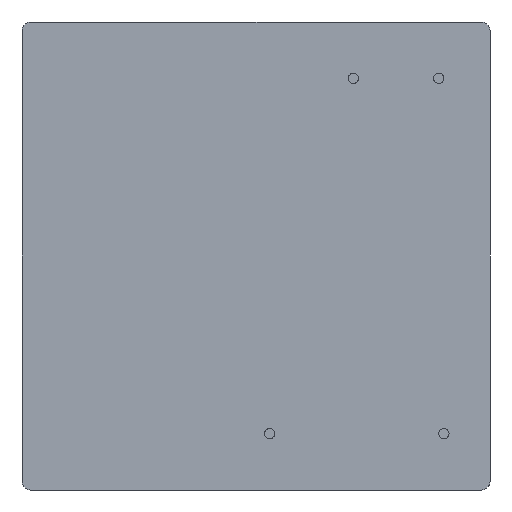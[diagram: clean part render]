
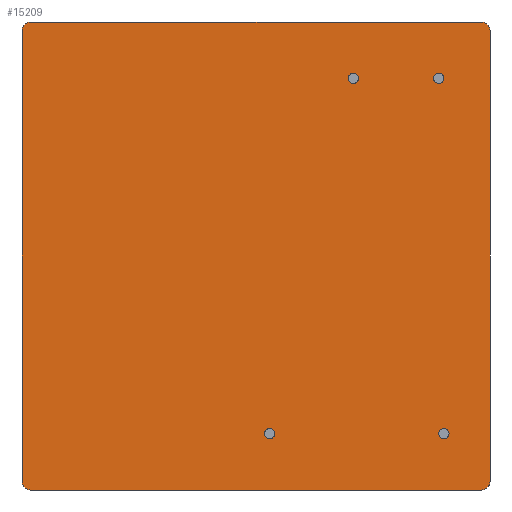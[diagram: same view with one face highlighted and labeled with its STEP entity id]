
A CAD part, front view. The second image highlights one B-rep face of the part: STEP entity #15209.
In plain terms, the highlighted planar face has unit normal (0, -1, 0).
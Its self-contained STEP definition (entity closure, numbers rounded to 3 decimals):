
#4 = CARTESIAN_POINT ( 'NONE',  ( 5.7, 0., 10.7 ) ) ;
#176 = VERTEX_POINT ( 'NONE', #22295 ) ;
#203 = AXIS2_PLACEMENT_3D ( 'NONE', #12719, #22758, #24629 ) ;
#848 = EDGE_LOOP ( 'NONE', ( #10587, #23562, #11804, #15356, #2453, #14245, #7629, #5491 ) ) ;
#942 = LINE ( 'NONE', #5122, #10910 ) ;
#1157 = EDGE_LOOP ( 'NONE', ( #21996, #26554 ) ) ;
#1681 = AXIS2_PLACEMENT_3D ( 'NONE', #24053, #22182, #11874 ) ;
#1868 = FACE_BOUND ( 'NONE', #5534, .T. ) ;
#2317 = VERTEX_POINT ( 'NONE', #17828 ) ;
#2453 = ORIENTED_EDGE ( 'NONE', *, *, #8148, .F. ) ;
#2474 = VERTEX_POINT ( 'NONE', #9324 ) ;
#2648 = CIRCLE ( 'NONE', #17814, 0.5 ) ;
#2751 = AXIS2_PLACEMENT_3D ( 'NONE', #11632, #22075, #3471 ) ;
#2992 = DIRECTION ( 'NONE',  ( 0., 0., -1. ) ) ;
#3059 = DIRECTION ( 'NONE',  ( 0., -1., 0. ) ) ;
#3083 = DIRECTION ( 'NONE',  ( 0., -1., 0. ) ) ;
#3399 = DIRECTION ( 'NONE',  ( 0., -1., 0. ) ) ;
#3471 = DIRECTION ( 'NONE',  ( 0., 0., -1. ) ) ;
#3518 = EDGE_LOOP ( 'NONE', ( #13709, #18211 ) ) ;
#3532 = EDGE_CURVE ( 'NONE', #2474, #9850, #9167, .T. ) ;
#3627 = CIRCLE ( 'NONE', #9233, 0.5 ) ;
#3652 = VERTEX_POINT ( 'NONE', #8875 ) ;
#4139 = PLANE ( 'NONE',  #203 ) ;
#4401 = VECTOR ( 'NONE', #11032, 1000. ) ;
#4424 = CIRCLE ( 'NONE', #2751, 0.3 ) ;
#5081 = AXIS2_PLACEMENT_3D ( 'NONE', #25232, #3399, #20101 ) ;
#5122 = CARTESIAN_POINT ( 'NONE',  ( 13.7, 0., 13.7 ) ) ;
#5287 = CARTESIAN_POINT ( 'NONE',  ( 0.8, 0., -10.7 ) ) ;
#5487 = EDGE_CURVE ( 'NONE', #18491, #7901, #8967, .T. ) ;
#5488 = DIRECTION ( 'NONE',  ( 0., 0., -1. ) ) ;
#5491 = ORIENTED_EDGE ( 'NONE', *, *, #20426, .T. ) ;
#5504 = DIRECTION ( 'NONE',  ( 0., -1., 0. ) ) ;
#5534 = EDGE_LOOP ( 'NONE', ( #25636, #8816 ) ) ;
#5606 = AXIS2_PLACEMENT_3D ( 'NONE', #23253, #3059, #25528 ) ;
#6508 = DIRECTION ( 'NONE',  ( 0., 0., -1. ) ) ;
#6684 = DIRECTION ( 'NONE',  ( 0., 0., -1. ) ) ;
#7076 = CIRCLE ( 'NONE', #22667, 0.3 ) ;
#7495 = ORIENTED_EDGE ( 'NONE', *, *, #14498, .F. ) ;
#7629 = ORIENTED_EDGE ( 'NONE', *, *, #11820, .F. ) ;
#7780 = VERTEX_POINT ( 'NONE', #4 ) ;
#7800 = CARTESIAN_POINT ( 'NONE',  ( -13.7, 0., 13.2 ) ) ;
#7901 = VERTEX_POINT ( 'NONE', #5287 ) ;
#8140 = VERTEX_POINT ( 'NONE', #18278 ) ;
#8148 = EDGE_CURVE ( 'NONE', #26341, #8140, #16382, .T. ) ;
#8290 = CARTESIAN_POINT ( 'NONE',  ( -13.7, 0., -13.2 ) ) ;
#8557 = CARTESIAN_POINT ( 'NONE',  ( -13.7, 0., 13.7 ) ) ;
#8742 = VECTOR ( 'NONE', #15339, 1000. ) ;
#8816 = ORIENTED_EDGE ( 'NONE', *, *, #21939, .F. ) ;
#8875 = CARTESIAN_POINT ( 'NONE',  ( 13.7, 0., -13.2 ) ) ;
#8967 = CIRCLE ( 'NONE', #5081, 0.3 ) ;
#9167 = CIRCLE ( 'NONE', #24340, 0.3 ) ;
#9233 = AXIS2_PLACEMENT_3D ( 'NONE', #10905, #20807, #6684 ) ;
#9324 = CARTESIAN_POINT ( 'NONE',  ( 10.7, 0., 10.7 ) ) ;
#9365 = VECTOR ( 'NONE', #15989, 1000. ) ;
#9463 = ORIENTED_EDGE ( 'NONE', *, *, #13462, .F. ) ;
#9850 = VERTEX_POINT ( 'NONE', #20728 ) ;
#10094 = DIRECTION ( 'NONE',  ( 0., 0., -1. ) ) ;
#10277 = FACE_BOUND ( 'NONE', #20931, .T. ) ;
#10337 = CIRCLE ( 'NONE', #1681, 0.3 ) ;
#10587 = ORIENTED_EDGE ( 'NONE', *, *, #17955, .F. ) ;
#10622 = DIRECTION ( 'NONE',  ( 0., 0., -1. ) ) ;
#10735 = AXIS2_PLACEMENT_3D ( 'NONE', #17271, #25064, #6508 ) ;
#10763 = CARTESIAN_POINT ( 'NONE',  ( 0.8, 0., -10.1 ) ) ;
#10766 = VERTEX_POINT ( 'NONE', #13944 ) ;
#10905 = CARTESIAN_POINT ( 'NONE',  ( 13.2, 0., 13.2 ) ) ;
#10910 = VECTOR ( 'NONE', #2992, 1000. ) ;
#11032 = DIRECTION ( 'NONE',  ( 0., 0., 1. ) ) ;
#11632 = CARTESIAN_POINT ( 'NONE',  ( 0.8, 0., -10.4 ) ) ;
#11804 = ORIENTED_EDGE ( 'NONE', *, *, #17240, .F. ) ;
#11820 = EDGE_CURVE ( 'NONE', #19705, #13485, #13078, .T. ) ;
#11832 = CARTESIAN_POINT ( 'NONE',  ( -13.2, 0., 13.7 ) ) ;
#11874 = DIRECTION ( 'NONE',  ( 0., 0., -1. ) ) ;
#12600 = EDGE_CURVE ( 'NONE', #2317, #176, #7076, .T. ) ;
#12628 = EDGE_CURVE ( 'NONE', #7901, #18491, #4424, .T. ) ;
#12667 = VERTEX_POINT ( 'NONE', #17729 ) ;
#12719 = CARTESIAN_POINT ( 'NONE',  ( 0., 0., 0. ) ) ;
#13078 = LINE ( 'NONE', #8557, #4401 ) ;
#13462 = EDGE_CURVE ( 'NONE', #7780, #10766, #23117, .T. ) ;
#13485 = VERTEX_POINT ( 'NONE', #7800 ) ;
#13510 = CARTESIAN_POINT ( 'NONE',  ( -13.2, 0., -13.2 ) ) ;
#13532 = CARTESIAN_POINT ( 'NONE',  ( 5.7, 0., 10.4 ) ) ;
#13709 = ORIENTED_EDGE ( 'NONE', *, *, #5487, .F. ) ;
#13792 = DIRECTION ( 'NONE',  ( 0., 0., -1. ) ) ;
#13944 = CARTESIAN_POINT ( 'NONE',  ( 5.7, 0., 10.1 ) ) ;
#14245 = ORIENTED_EDGE ( 'NONE', *, *, #22762, .T. ) ;
#14316 = EDGE_CURVE ( 'NONE', #24525, #8140, #3627, .T. ) ;
#14469 = CIRCLE ( 'NONE', #23537, 0.3 ) ;
#14498 = EDGE_CURVE ( 'NONE', #10766, #7780, #14469, .T. ) ;
#14617 = FACE_BOUND ( 'NONE', #3518, .T. ) ;
#15209 = ADVANCED_FACE ( 'NONE', ( #1868, #10277, #14617, #24879, #18947 ), #4139, .T. ) ;
#15339 = DIRECTION ( 'NONE',  ( -1., 0., 0. ) ) ;
#15356 = ORIENTED_EDGE ( 'NONE', *, *, #14316, .T. ) ;
#15989 = DIRECTION ( 'NONE',  ( 1., 0., 0. ) ) ;
#15990 = DIRECTION ( 'NONE',  ( 0., 0., -1. ) ) ;
#16177 = CIRCLE ( 'NONE', #19605, 0.5 ) ;
#16220 = CARTESIAN_POINT ( 'NONE',  ( 5.7, 0., 10.4 ) ) ;
#16382 = LINE ( 'NONE', #26363, #9365 ) ;
#17240 = EDGE_CURVE ( 'NONE', #24525, #3652, #942, .T. ) ;
#17271 = CARTESIAN_POINT ( 'NONE',  ( 11., 0., -10.4 ) ) ;
#17329 = CARTESIAN_POINT ( 'NONE',  ( 13.2, 0., -13.2 ) ) ;
#17729 = CARTESIAN_POINT ( 'NONE',  ( -13.2, 0., -13.7 ) ) ;
#17814 = AXIS2_PLACEMENT_3D ( 'NONE', #17329, #25541, #10622 ) ;
#17828 = CARTESIAN_POINT ( 'NONE',  ( 11., 0., -10.7 ) ) ;
#17955 = EDGE_CURVE ( 'NONE', #24147, #12667, #21830, .T. ) ;
#18211 = ORIENTED_EDGE ( 'NONE', *, *, #12628, .F. ) ;
#18278 = CARTESIAN_POINT ( 'NONE',  ( 13.2, 0., 13.7 ) ) ;
#18454 = CARTESIAN_POINT ( 'NONE',  ( 13.7, 0., 13.2 ) ) ;
#18487 = CARTESIAN_POINT ( 'NONE',  ( 13.2, 0., -13.7 ) ) ;
#18491 = VERTEX_POINT ( 'NONE', #10763 ) ;
#18947 = FACE_OUTER_BOUND ( 'NONE', #848, .T. ) ;
#19605 = AXIS2_PLACEMENT_3D ( 'NONE', #13510, #21772, #5488 ) ;
#19705 = VERTEX_POINT ( 'NONE', #8290 ) ;
#19813 = CARTESIAN_POINT ( 'NONE',  ( -13.7, 0., -13.7 ) ) ;
#20101 = DIRECTION ( 'NONE',  ( 0., 0., -1. ) ) ;
#20125 = DIRECTION ( 'NONE',  ( 0., 0., -1. ) ) ;
#20392 = DIRECTION ( 'NONE',  ( 0., -1., 0. ) ) ;
#20426 = EDGE_CURVE ( 'NONE', #19705, #12667, #16177, .T. ) ;
#20728 = CARTESIAN_POINT ( 'NONE',  ( 10.7, 0., 10.1 ) ) ;
#20807 = DIRECTION ( 'NONE',  ( 0., -1., 0. ) ) ;
#20931 = EDGE_LOOP ( 'NONE', ( #9463, #7495 ) ) ;
#21315 = EDGE_CURVE ( 'NONE', #24147, #3652, #2648, .T. ) ;
#21772 = DIRECTION ( 'NONE',  ( 0., -1., 0. ) ) ;
#21830 = LINE ( 'NONE', #19813, #8742 ) ;
#21896 = CARTESIAN_POINT ( 'NONE',  ( 10.7, 0., 10.4 ) ) ;
#21939 = EDGE_CURVE ( 'NONE', #9850, #2474, #10337, .T. ) ;
#21996 = ORIENTED_EDGE ( 'NONE', *, *, #26295, .F. ) ;
#22075 = DIRECTION ( 'NONE',  ( 0., -1., 0. ) ) ;
#22170 = DIRECTION ( 'NONE',  ( 0., -1., 0. ) ) ;
#22182 = DIRECTION ( 'NONE',  ( 0., -1., 0. ) ) ;
#22295 = CARTESIAN_POINT ( 'NONE',  ( 11., 0., -10.1 ) ) ;
#22667 = AXIS2_PLACEMENT_3D ( 'NONE', #26226, #5504, #13792 ) ;
#22758 = DIRECTION ( 'NONE',  ( 0., -1., 0. ) ) ;
#22762 = EDGE_CURVE ( 'NONE', #26341, #13485, #26369, .T. ) ;
#23117 = CIRCLE ( 'NONE', #25236, 0.3 ) ;
#23253 = CARTESIAN_POINT ( 'NONE',  ( -13.2, 0., 13.2 ) ) ;
#23537 = AXIS2_PLACEMENT_3D ( 'NONE', #16220, #22170, #20125 ) ;
#23562 = ORIENTED_EDGE ( 'NONE', *, *, #21315, .T. ) ;
#24053 = CARTESIAN_POINT ( 'NONE',  ( 10.7, 0., 10.4 ) ) ;
#24147 = VERTEX_POINT ( 'NONE', #18487 ) ;
#24340 = AXIS2_PLACEMENT_3D ( 'NONE', #21896, #20392, #10094 ) ;
#24525 = VERTEX_POINT ( 'NONE', #18454 ) ;
#24576 = CIRCLE ( 'NONE', #10735, 0.3 ) ;
#24629 = DIRECTION ( 'NONE',  ( 0., 0., -1. ) ) ;
#24879 = FACE_BOUND ( 'NONE', #1157, .T. ) ;
#25064 = DIRECTION ( 'NONE',  ( 0., -1., 0. ) ) ;
#25232 = CARTESIAN_POINT ( 'NONE',  ( 0.8, 0., -10.4 ) ) ;
#25236 = AXIS2_PLACEMENT_3D ( 'NONE', #13532, #3083, #15990 ) ;
#25528 = DIRECTION ( 'NONE',  ( 0., 0., -1. ) ) ;
#25541 = DIRECTION ( 'NONE',  ( 0., -1., 0. ) ) ;
#25636 = ORIENTED_EDGE ( 'NONE', *, *, #3532, .F. ) ;
#26226 = CARTESIAN_POINT ( 'NONE',  ( 11., 0., -10.4 ) ) ;
#26295 = EDGE_CURVE ( 'NONE', #176, #2317, #24576, .T. ) ;
#26341 = VERTEX_POINT ( 'NONE', #11832 ) ;
#26363 = CARTESIAN_POINT ( 'NONE',  ( -13.7, 0., 13.7 ) ) ;
#26369 = CIRCLE ( 'NONE', #5606, 0.5 ) ;
#26554 = ORIENTED_EDGE ( 'NONE', *, *, #12600, .F. ) ;
